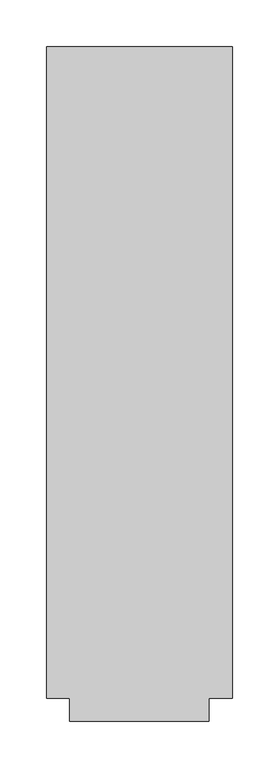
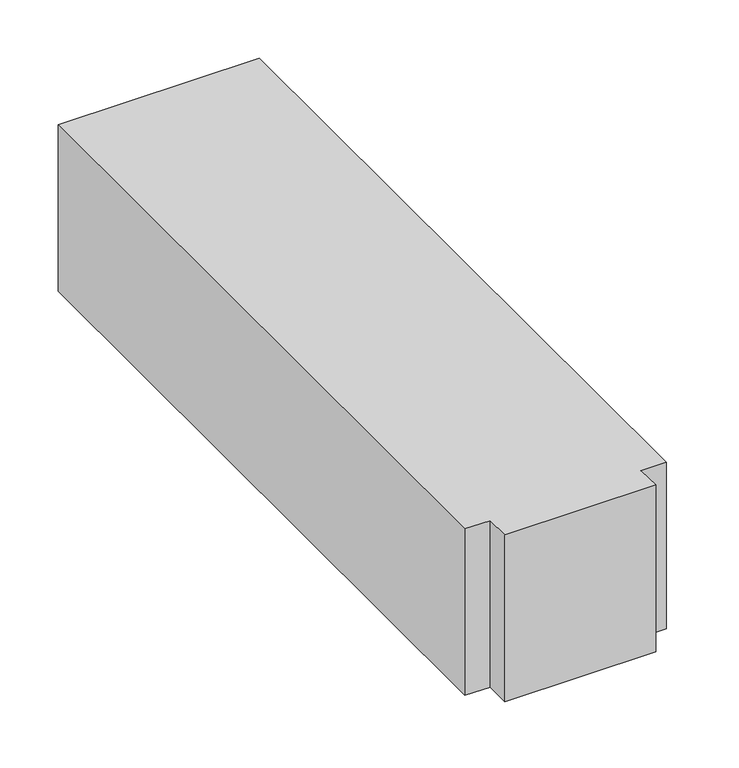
"""IFC4 building model written with IfcOpenShell, lengths in millimetres: duct fitting geometry, M_Te rectangular : Estándar."""

from ifc_helpers import new_model, si_unit, frame, origin, place, context, project, spatial, polyline, outline, extrude, source, transform, mapped, element, save


def duct_fitting_d30654be(model_context):
    return source(origin(), model_context, "Body", "SweptSolid", [
        extrude(outline(polyline([(-100.0, -350.0), (-100.0, 350.0), (100.0, 350.0), (100.0, -350.0), (75.0, -350.0), (75.0, -375.0), (-75.0, -375.0), (-75.0, -350.0), (-100.0, -350.0)])), frame((0.0, 0.0, -87.5), z_axis=(0.0, 0.0, 1.0), x_axis=(1.0, 0.0, 0.0)), (0.0, 0.0, 1.0), 175.0),
    ])


if __name__ == "__main__":
    model = new_model("IFC4")
    model_context = context("Model", 3, world=origin())
    ifc_project = project(units=[si_unit("LENGTHUNIT", "METRE", prefix="MILLI")], contexts=[model_context])
    site = spatial("IfcSite", under=ifc_project)
    building = spatial("IfcBuilding", under=site)
    placement = place(None, origin())
    duct_fitting_shape = duct_fitting_d30654be(model_context)
    element("IfcDuctFitting", 1, ObjectType="M_Te rectangular : Estándar", at=placement, inside=building, context=model_context, shape_type="MappedRepresentation", body=[
        mapped(duct_fitting_shape, transform((0.0, 0.0, 0.0), x_axis=(1.0, 0.0, 0.0), y_axis=(0.0, 1.0, 0.0), z_axis=(0.0, 0.0, 1.0))),
    ])
    save(model, "model.ifc")
